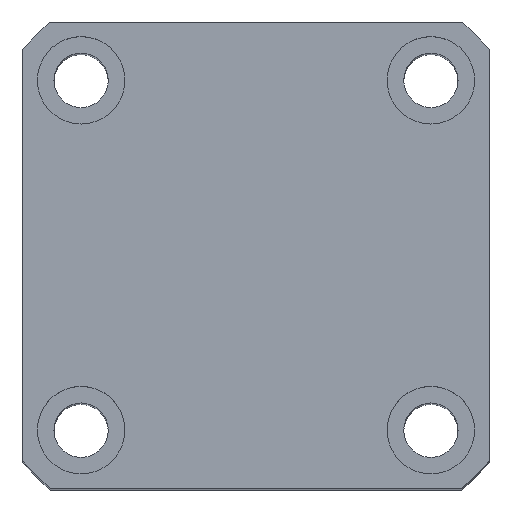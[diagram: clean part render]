
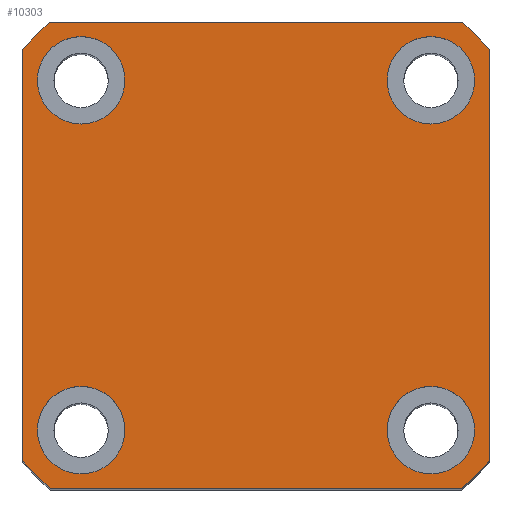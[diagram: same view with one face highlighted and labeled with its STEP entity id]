
A CAD part, top view. The second image highlights one B-rep face of the part: STEP entity #10303.
In plain terms, the highlighted planar face has unit normal (0, 0, 1) as drawn and (1, 0, 0) by its records, which use the part's own axes.
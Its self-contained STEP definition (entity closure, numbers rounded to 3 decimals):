
#99 = CARTESIAN_POINT ( 'NONE',  ( 95., -21.166, -24. ) ) ;
#507 = AXIS2_PLACEMENT_3D ( 'NONE', #4549, #10172, #5423 ) ;
#533 = VERTEX_POINT ( 'NONE', #8666 ) ;
#570 = CIRCLE ( 'NONE', #9030, 4.5 ) ;
#681 = AXIS2_PLACEMENT_3D ( 'NONE', #5008, #10606, #5861 ) ;
#689 = FACE_BOUND ( 'NONE', #10609, .T. ) ;
#1061 = CARTESIAN_POINT ( 'NONE',  ( 95., -21.166, 24. ) ) ;
#1070 = DIRECTION ( 'NONE',  ( 1., 0., 0. ) ) ;
#1111 = EDGE_CURVE ( 'NONE', #8822, #7091, #3628, .T. ) ;
#1124 = EDGE_CURVE ( 'NONE', #7091, #10060, #10355, .T. ) ;
#1255 = VERTEX_POINT ( 'NONE', #3019 ) ;
#1497 = AXIS2_PLACEMENT_3D ( 'NONE', #2041, #7992, #2929 ) ;
#1499 = DIRECTION ( 'NONE',  ( 1., 0., 0. ) ) ;
#1523 = DIRECTION ( 'NONE',  ( 0., 0., -1. ) ) ;
#1547 = CARTESIAN_POINT ( 'NONE',  ( 95., -18., 22.5 ) ) ;
#1551 = DIRECTION ( 'NONE',  ( 1., 0., 0. ) ) ;
#1584 = CARTESIAN_POINT ( 'NONE',  ( 95., 18., 22.5 ) ) ;
#1585 = CARTESIAN_POINT ( 'NONE',  ( 95., 18., -18. ) ) ;
#1619 = EDGE_CURVE ( 'NONE', #10060, #8565, #9964, .T. ) ;
#1710 = EDGE_LOOP ( 'NONE', ( #5944, #2472 ) ) ;
#1864 = CARTESIAN_POINT ( 'NONE',  ( 95., -18., -18. ) ) ;
#1941 = CIRCLE ( 'NONE', #507, 32. ) ;
#1994 = VERTEX_POINT ( 'NONE', #1061 ) ;
#2041 = CARTESIAN_POINT ( 'NONE',  ( 95., -18., 18. ) ) ;
#2099 = VECTOR ( 'NONE', #3514, 1000. ) ;
#2428 = DIRECTION ( 'NONE',  ( 1., 0., 0. ) ) ;
#2472 = ORIENTED_EDGE ( 'NONE', *, *, #5473, .F. ) ;
#2512 = VERTEX_POINT ( 'NONE', #5912 ) ;
#2642 = CIRCLE ( 'NONE', #9496, 4.5 ) ;
#2692 = CARTESIAN_POINT ( 'NONE',  ( 95., 24., 21.166 ) ) ;
#2741 = DIRECTION ( 'NONE',  ( 0., 0., -1. ) ) ;
#2821 = ORIENTED_EDGE ( 'NONE', *, *, #7087, .F. ) ;
#2851 = EDGE_CURVE ( 'NONE', #1255, #5504, #570, .T. ) ;
#2866 = DIRECTION ( 'NONE',  ( 1., 0., 0. ) ) ;
#2912 = EDGE_LOOP ( 'NONE', ( #2821, #9633 ) ) ;
#2929 = DIRECTION ( 'NONE',  ( 0., 0., -1. ) ) ;
#3019 = CARTESIAN_POINT ( 'NONE',  ( 95., 18., -13.5 ) ) ;
#3049 = DIRECTION ( 'NONE',  ( 1., 0., 0. ) ) ;
#3159 = VERTEX_POINT ( 'NONE', #9001 ) ;
#3346 = EDGE_LOOP ( 'NONE', ( #7556, #5865, #8742, #3442, #6523, #10334, #4679, #7319 ) ) ;
#3437 = CARTESIAN_POINT ( 'NONE',  ( 95., 24., -24. ) ) ;
#3442 = ORIENTED_EDGE ( 'NONE', *, *, #9337, .T. ) ;
#3443 = DIRECTION ( 'NONE',  ( 0., 0., -1. ) ) ;
#3455 = DIRECTION ( 'NONE',  ( 1., 0., 0. ) ) ;
#3473 = CARTESIAN_POINT ( 'NONE',  ( 95., 0., 0. ) ) ;
#3514 = DIRECTION ( 'NONE',  ( 0., 1., 0. ) ) ;
#3532 = CIRCLE ( 'NONE', #9431, 32. ) ;
#3628 = CIRCLE ( 'NONE', #10599, 32. ) ;
#3784 = CIRCLE ( 'NONE', #6197, 4.5 ) ;
#3795 = CARTESIAN_POINT ( 'NONE',  ( 95., 18., 18. ) ) ;
#3808 = AXIS2_PLACEMENT_3D ( 'NONE', #7941, #2866, #8692 ) ;
#3999 = LINE ( 'NONE', #4863, #8411 ) ;
#4017 = EDGE_LOOP ( 'NONE', ( #10375, #4184 ) ) ;
#4184 = ORIENTED_EDGE ( 'NONE', *, *, #10075, .F. ) ;
#4214 = AXIS2_PLACEMENT_3D ( 'NONE', #3795, #9508, #4663 ) ;
#4453 = EDGE_CURVE ( 'NONE', #5504, #1255, #10533, .T. ) ;
#4549 = CARTESIAN_POINT ( 'NONE',  ( 95., 0., 0. ) ) ;
#4663 = DIRECTION ( 'NONE',  ( 0., 0., -1. ) ) ;
#4679 = ORIENTED_EDGE ( 'NONE', *, *, #10781, .T. ) ;
#4774 = FACE_OUTER_BOUND ( 'NONE', #3346, .T. ) ;
#4863 = CARTESIAN_POINT ( 'NONE',  ( 95., 24., 24. ) ) ;
#5008 = CARTESIAN_POINT ( 'NONE',  ( 95., 0., 0. ) ) ;
#5098 = EDGE_CURVE ( 'NONE', #1994, #3159, #3532, .T. ) ;
#5423 = DIRECTION ( 'NONE',  ( 0., 0., -1. ) ) ;
#5473 = EDGE_CURVE ( 'NONE', #10369, #533, #8591, .T. ) ;
#5475 = CIRCLE ( 'NONE', #4214, 4.5 ) ;
#5487 = EDGE_CURVE ( 'NONE', #8565, #8679, #10392, .T. ) ;
#5504 = VERTEX_POINT ( 'NONE', #9624 ) ;
#5861 = DIRECTION ( 'NONE',  ( 0., 0., -1. ) ) ;
#5865 = ORIENTED_EDGE ( 'NONE', *, *, #1619, .T. ) ;
#5912 = CARTESIAN_POINT ( 'NONE',  ( 95., -18., -22.5 ) ) ;
#5944 = ORIENTED_EDGE ( 'NONE', *, *, #10659, .F. ) ;
#6197 = AXIS2_PLACEMENT_3D ( 'NONE', #1864, #7834, #2741 ) ;
#6223 = VECTOR ( 'NONE', #7309, 1000. ) ;
#6252 = CARTESIAN_POINT ( 'NONE',  ( 95., -18., 18. ) ) ;
#6523 = ORIENTED_EDGE ( 'NONE', *, *, #7479, .T. ) ;
#6666 = CARTESIAN_POINT ( 'NONE',  ( 95., 0., 0. ) ) ;
#7049 = FACE_BOUND ( 'NONE', #4017, .T. ) ;
#7087 = EDGE_CURVE ( 'NONE', #2512, #7466, #3784, .T. ) ;
#7091 = VERTEX_POINT ( 'NONE', #99 ) ;
#7097 = DIRECTION ( 'NONE',  ( 0., 0., -1. ) ) ;
#7185 = CARTESIAN_POINT ( 'NONE',  ( 95., -24., -21.166 ) ) ;
#7309 = DIRECTION ( 'NONE',  ( 0., 0., 1. ) ) ;
#7319 = ORIENTED_EDGE ( 'NONE', *, *, #1111, .T. ) ;
#7386 = CARTESIAN_POINT ( 'NONE',  ( 95., -24., 24. ) ) ;
#7466 = VERTEX_POINT ( 'NONE', #10485 ) ;
#7479 = EDGE_CURVE ( 'NONE', #7703, #1994, #3999, .T. ) ;
#7495 = DIRECTION ( 'NONE',  ( 0., 0., -1. ) ) ;
#7543 = CARTESIAN_POINT ( 'NONE',  ( 95., -18., -18. ) ) ;
#7556 = ORIENTED_EDGE ( 'NONE', *, *, #1124, .T. ) ;
#7665 = AXIS2_PLACEMENT_3D ( 'NONE', #7543, #2428, #8305 ) ;
#7703 = VERTEX_POINT ( 'NONE', #8377 ) ;
#7834 = DIRECTION ( 'NONE',  ( 1., 0., 0. ) ) ;
#7897 = EDGE_CURVE ( 'NONE', #9819, #10332, #2642, .T. ) ;
#7941 = CARTESIAN_POINT ( 'NONE',  ( 95., 18., -18. ) ) ;
#7952 = LINE ( 'NONE', #7386, #9715 ) ;
#7992 = DIRECTION ( 'NONE',  ( 1., 0., 0. ) ) ;
#8046 = DIRECTION ( 'NONE',  ( 0., 0., -1. ) ) ;
#8056 = DIRECTION ( 'NONE',  ( 1., 0., 0. ) ) ;
#8077 = CARTESIAN_POINT ( 'NONE',  ( 95., 0., 0. ) ) ;
#8091 = CARTESIAN_POINT ( 'NONE',  ( 95., 18., 18. ) ) ;
#8152 = DIRECTION ( 'NONE',  ( 0., 0., -1. ) ) ;
#8169 = AXIS2_PLACEMENT_3D ( 'NONE', #8091, #3049, #8841 ) ;
#8201 = ORIENTED_EDGE ( 'NONE', *, *, #2851, .F. ) ;
#8260 = CIRCLE ( 'NONE', #1497, 4.5 ) ;
#8305 = DIRECTION ( 'NONE',  ( 0., 0., -1. ) ) ;
#8377 = CARTESIAN_POINT ( 'NONE',  ( 95., 21.166, 24. ) ) ;
#8411 = VECTOR ( 'NONE', #10439, 1000. ) ;
#8565 = VERTEX_POINT ( 'NONE', #9447 ) ;
#8581 = CARTESIAN_POINT ( 'NONE',  ( 95., -18., 13.5 ) ) ;
#8591 = CIRCLE ( 'NONE', #8169, 4.5 ) ;
#8666 = CARTESIAN_POINT ( 'NONE',  ( 95., 18., 13.5 ) ) ;
#8679 = VERTEX_POINT ( 'NONE', #2692 ) ;
#8692 = DIRECTION ( 'NONE',  ( 0., 0., -1. ) ) ;
#8742 = ORIENTED_EDGE ( 'NONE', *, *, #5487, .T. ) ;
#8790 = ORIENTED_EDGE ( 'NONE', *, *, #4453, .F. ) ;
#8822 = VERTEX_POINT ( 'NONE', #7185 ) ;
#8841 = DIRECTION ( 'NONE',  ( 0., 0., -1. ) ) ;
#9001 = CARTESIAN_POINT ( 'NONE',  ( 95., -24., 21.166 ) ) ;
#9030 = AXIS2_PLACEMENT_3D ( 'NONE', #1585, #1551, #1523 ) ;
#9093 = FACE_BOUND ( 'NONE', #1710, .T. ) ;
#9337 = EDGE_CURVE ( 'NONE', #8679, #7703, #1941, .T. ) ;
#9340 = FACE_BOUND ( 'NONE', #2912, .T. ) ;
#9431 = AXIS2_PLACEMENT_3D ( 'NONE', #6666, #1499, #7495 ) ;
#9447 = CARTESIAN_POINT ( 'NONE',  ( 95., 24., -21.166 ) ) ;
#9480 = CARTESIAN_POINT ( 'NONE',  ( 95., 21.166, -24. ) ) ;
#9496 = AXIS2_PLACEMENT_3D ( 'NONE', #6252, #1070, #7097 ) ;
#9508 = DIRECTION ( 'NONE',  ( 1., 0., 0. ) ) ;
#9538 = EDGE_CURVE ( 'NONE', #7466, #2512, #9697, .T. ) ;
#9585 = CARTESIAN_POINT ( 'NONE',  ( 95., 24., 24. ) ) ;
#9624 = CARTESIAN_POINT ( 'NONE',  ( 95., 18., -22.5 ) ) ;
#9633 = ORIENTED_EDGE ( 'NONE', *, *, #9538, .F. ) ;
#9697 = CIRCLE ( 'NONE', #7665, 4.5 ) ;
#9715 = VECTOR ( 'NONE', #8152, 1000. ) ;
#9771 = PLANE ( 'NONE',  #681 ) ;
#9819 = VERTEX_POINT ( 'NONE', #8581 ) ;
#9964 = CIRCLE ( 'NONE', #10544, 32. ) ;
#10060 = VERTEX_POINT ( 'NONE', #9480 ) ;
#10075 = EDGE_CURVE ( 'NONE', #10332, #9819, #8260, .T. ) ;
#10172 = DIRECTION ( 'NONE',  ( 1., 0., 0. ) ) ;
#10303 = ADVANCED_FACE ( 'NONE', ( #9340, #7049, #689, #9093, #4774 ), #9771, .T. ) ;
#10332 = VERTEX_POINT ( 'NONE', #1547 ) ;
#10334 = ORIENTED_EDGE ( 'NONE', *, *, #5098, .T. ) ;
#10355 = LINE ( 'NONE', #3437, #2099 ) ;
#10369 = VERTEX_POINT ( 'NONE', #1584 ) ;
#10375 = ORIENTED_EDGE ( 'NONE', *, *, #7897, .F. ) ;
#10392 = LINE ( 'NONE', #9585, #6223 ) ;
#10439 = DIRECTION ( 'NONE',  ( 0., -1., 0. ) ) ;
#10485 = CARTESIAN_POINT ( 'NONE',  ( 95., -18., -13.5 ) ) ;
#10533 = CIRCLE ( 'NONE', #3808, 4.5 ) ;
#10544 = AXIS2_PLACEMENT_3D ( 'NONE', #8077, #8056, #8046 ) ;
#10599 = AXIS2_PLACEMENT_3D ( 'NONE', #3473, #3455, #3443 ) ;
#10606 = DIRECTION ( 'NONE',  ( 1., 0., 0. ) ) ;
#10609 = EDGE_LOOP ( 'NONE', ( #8790, #8201 ) ) ;
#10659 = EDGE_CURVE ( 'NONE', #533, #10369, #5475, .T. ) ;
#10781 = EDGE_CURVE ( 'NONE', #3159, #8822, #7952, .T. ) ;
